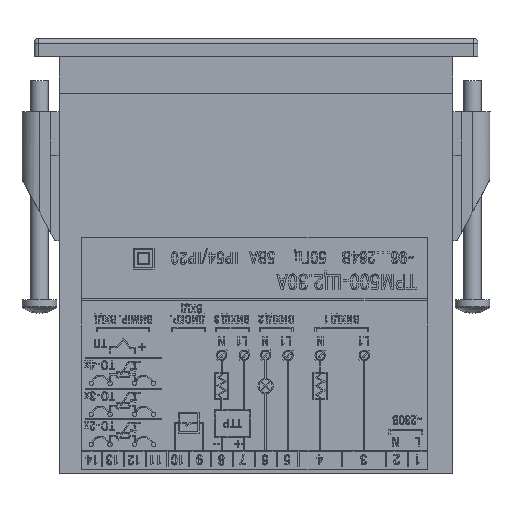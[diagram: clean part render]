
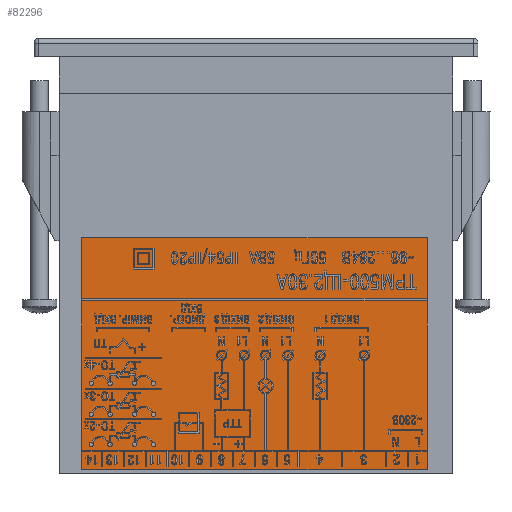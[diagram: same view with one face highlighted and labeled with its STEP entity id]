
A CAD part, front view. The second image highlights one B-rep face of the part: STEP entity #82296.
In plain terms, the highlighted planar face has unit normal (0, -1, 0).
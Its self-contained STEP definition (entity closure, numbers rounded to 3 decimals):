
#17377 = LINE ( 'NONE', #25440, #38810 ) ;
#18495 = CARTESIAN_POINT ( 'NONE',  ( 39.138, -20.6, -98.5 ) ) ;
#20044 = EDGE_CURVE ( 'NONE', #83108, #23744, #17377, .T. ) ;
#23271 = ORIENTED_EDGE ( 'NONE', *, *, #20044, .T. ) ;
#23744 = VERTEX_POINT ( 'NONE', #138300 ) ;
#25440 = CARTESIAN_POINT ( 'NONE',  ( 39.138, -20.6, -45.5 ) ) ;
#25962 = EDGE_CURVE ( 'NONE', #23744, #60992, #119097, .T. ) ;
#34055 = CARTESIAN_POINT ( 'NONE',  ( -39.862, -20.6, -98.5 ) ) ;
#36259 = EDGE_LOOP ( 'NONE', ( #23271, #103181, #80471, #69764 ) ) ;
#38810 = VECTOR ( 'NONE', #113823, 1000. ) ;
#40006 = DIRECTION ( 'NONE',  ( 1., 0., 0. ) ) ;
#40677 = FACE_OUTER_BOUND ( 'NONE', #36259, .T. ) ;
#43512 = DIRECTION ( 'NONE',  ( 0., -1., 0. ) ) ;
#53340 = VECTOR ( 'NONE', #40006, 1000. ) ;
#60992 = VERTEX_POINT ( 'NONE', #91049 ) ;
#69764 = ORIENTED_EDGE ( 'NONE', *, *, #183538, .T. ) ;
#70464 = AXIS2_PLACEMENT_3D ( 'NONE', #162546, #43512, #132813 ) ;
#77338 = VECTOR ( 'NONE', #99600, 1000. ) ;
#80471 = ORIENTED_EDGE ( 'NONE', *, *, #181609, .T. ) ;
#82296 = ADVANCED_FACE ( 'NONE', ( #40677 ), #171215, .T. ) ;
#83108 = VERTEX_POINT ( 'NONE', #18495 ) ;
#86977 = CARTESIAN_POINT ( 'NONE',  ( -39.862, -20.6, -45.5 ) ) ;
#87357 = CARTESIAN_POINT ( 'NONE',  ( -39.862, -20.6, -45.5 ) ) ;
#89847 = VERTEX_POINT ( 'NONE', #34055 ) ;
#91049 = CARTESIAN_POINT ( 'NONE',  ( -39.862, -20.6, -45.5 ) ) ;
#98600 = LINE ( 'NONE', #143713, #53340 ) ;
#99600 = DIRECTION ( 'NONE',  ( 0., 0., -1. ) ) ;
#103181 = ORIENTED_EDGE ( 'NONE', *, *, #25962, .T. ) ;
#113823 = DIRECTION ( 'NONE',  ( 0., 0., 1. ) ) ;
#119097 = LINE ( 'NONE', #87357, #168324 ) ;
#131213 = LINE ( 'NONE', #86977, #77338 ) ;
#132813 = DIRECTION ( 'NONE',  ( 0., 0., -1. ) ) ;
#138300 = CARTESIAN_POINT ( 'NONE',  ( 39.138, -20.6, -45.5 ) ) ;
#143713 = CARTESIAN_POINT ( 'NONE',  ( -39.862, -20.6, -98.5 ) ) ;
#162546 = CARTESIAN_POINT ( 'NONE',  ( 0., -20.6, 0. ) ) ;
#168324 = VECTOR ( 'NONE', #176659, 1000. ) ;
#171215 = PLANE ( 'NONE',  #70464 ) ;
#176659 = DIRECTION ( 'NONE',  ( -1., 0., 0. ) ) ;
#181609 = EDGE_CURVE ( 'NONE', #60992, #89847, #131213, .T. ) ;
#183538 = EDGE_CURVE ( 'NONE', #89847, #83108, #98600, .T. ) ;
